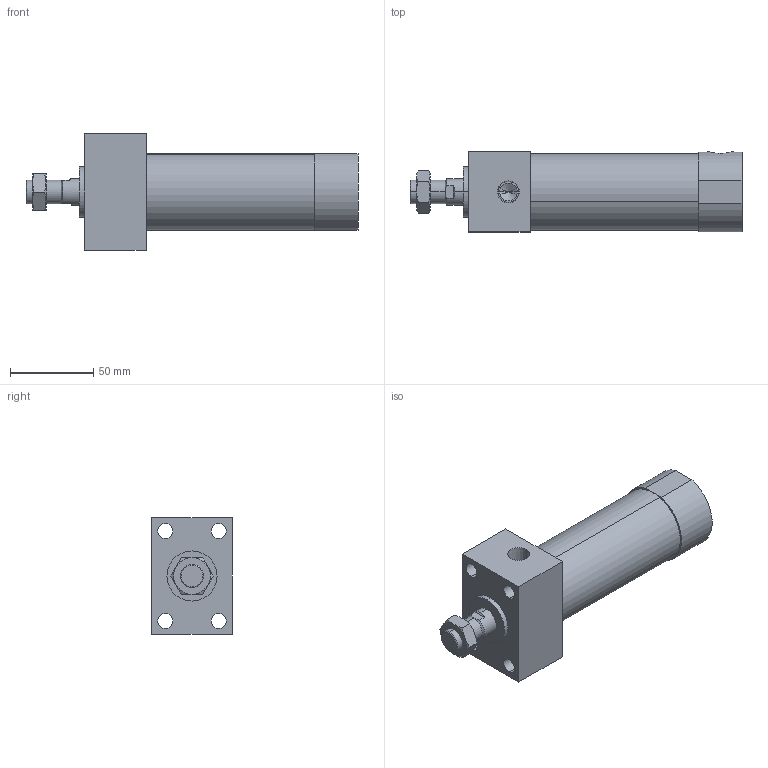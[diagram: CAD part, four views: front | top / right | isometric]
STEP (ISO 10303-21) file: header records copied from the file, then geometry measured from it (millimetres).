
FILE_DESCRIPTION (( 'STEP AP203' ), '1' );
FILE_NAME ('JGEF2-40-50.STEP', '2016-04-20T07:05:54', ( '' ), ( '' ), 'SwSTEP 2.0', 'SolidWorks 2014', '' );
FILE_SCHEMA (( 'CONFIG_CONTROL_DESIGN' ));
Length unit declared in the file: millimetre
Products named in the file (5): 40-50; JGEF2-40-50; JGEF2-40B; M14x1.5-8mm; JGES2-40A
Assembly tree (4 placements, depth 2):
  JGEF2-40-50
    JGEF2-40B
    40-50
    JGES2-40A
    M14x1.5-8mm
Bounding box: 199 x 48 x 70 mm (x, y, z)
Volume: 332841.4 mm3; surface area: 49722.7 mm2
Topology: 4 solids, 4 shells, 83 faces, 186 edges, 113 vertices
Faces by surface type: plane 29, cylinder 26, cone 16, torus 12
Entity records: 3019 total; most frequent: CARTESIAN_POINT 661, DIRECTION 406, ORIENTED_EDGE 360, EDGE_CURVE 180, AXIS2_PLACEMENT_3D 168, VERTEX_POINT 113, EDGE_LOOP 101, FACE_OUTER_BOUND 83
